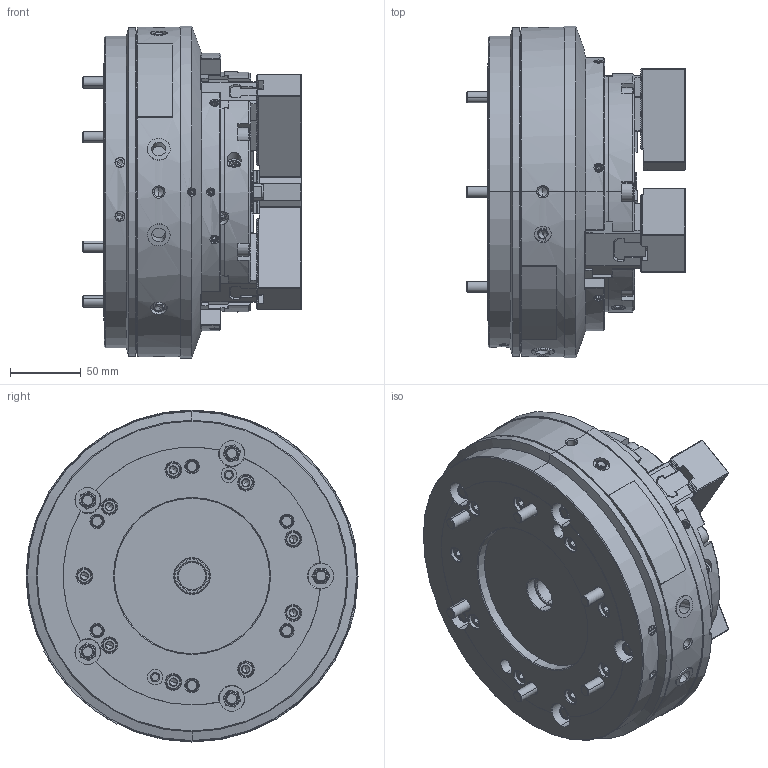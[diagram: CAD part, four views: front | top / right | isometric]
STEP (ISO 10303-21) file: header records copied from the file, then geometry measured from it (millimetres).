
FILE_DESCRIPTION (( 'STEP AP214' ), '1' );
FILE_NAME ('DEV-NRC06-HCL.STEP', '2024-10-03T04:43:34', ( '' ), ( '' ), 'SwSTEP 2.0', 'SolidWorks 2022', '' );
FILE_SCHEMA (( 'AUTOMOTIVE_DESIGN' ));
Length unit declared in the file: millimetre
Products named in the file (9): Copy of 61P413209^DEV-NRC06-クミタテ; DEV-NRC06-HCL; Copy of 0693000002^DEV-NRC06-クミタテ; Part1^DEV-NRC06-クミタテ; Copy of 0263001600^DEV-NRC06-クミタテ_円筒用; Copy of 61P302540^DEV-NRC06-クミタテ; Copy of 0030108110^DEV-NRC06-クミタテ; Copy of 61P400822^DEV-NRC06-クミタテ; Copy of 0030110030^DEV-NRC06-クミタテ
Assembly tree (23 placements, depth 2):
  DEV-NRC06-HCL
    Copy of 61P302540^DEV-NRC06-クミタテ  x3
    Copy of 61P400822^DEV-NRC06-クミタテ  x3
    Copy of 61P413209^DEV-NRC06-クミタテ
    Copy of 0030108110^DEV-NRC06-クミタテ  x6
    Copy of 0030110030^DEV-NRC06-クミタテ  x6
    Copy of 0263001600^DEV-NRC06-クミタテ_円筒用
    Copy of 0693000002^DEV-NRC06-クミタテ  x2
    Part1^DEV-NRC06-クミタテ
Bounding box: 155 x 235 x 235 mm (x, y, z)
Volume: 3749365.3 mm3; surface area: 322661.8 mm2
Topology: 23 solids, 60 shells, 4623 faces, 12585 edges, 8147 vertices
Faces by surface type: plane 2674, cylinder 1053, cone 730, bspline 131, torus 27, sphere 8
Entity records: 119323 total; most frequent: CARTESIAN_POINT 34097, ORIENTED_EDGE 18608, DIRECTION 16047, EDGE_CURVE 9304, VECTOR 6119, LINE 6119, VERTEX_POINT 6044, AXIS2_PLACEMENT_3D 4964
